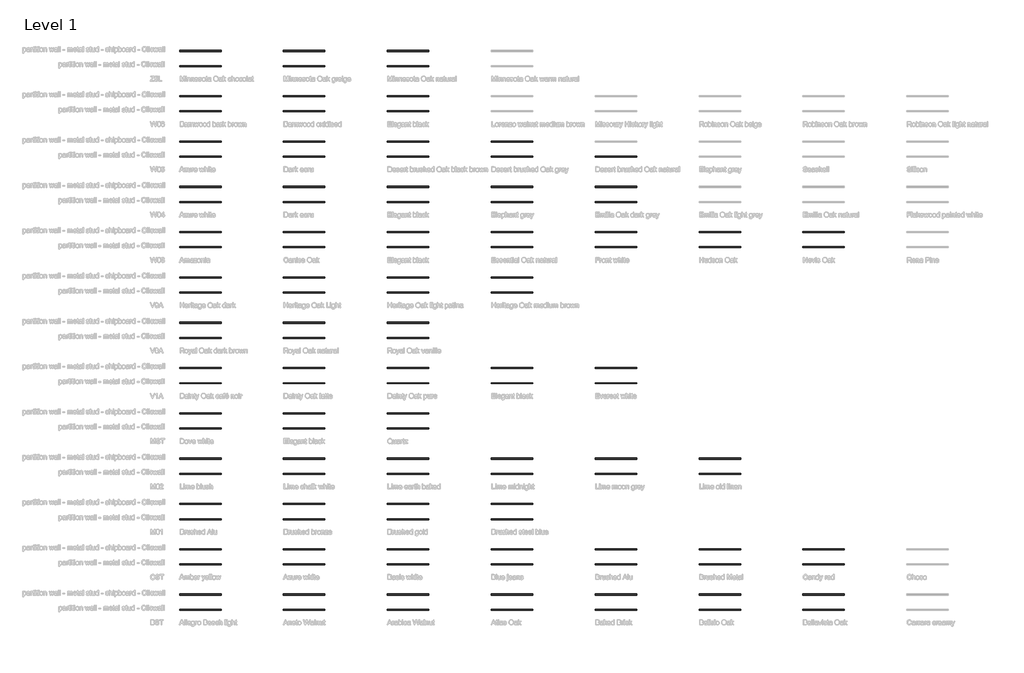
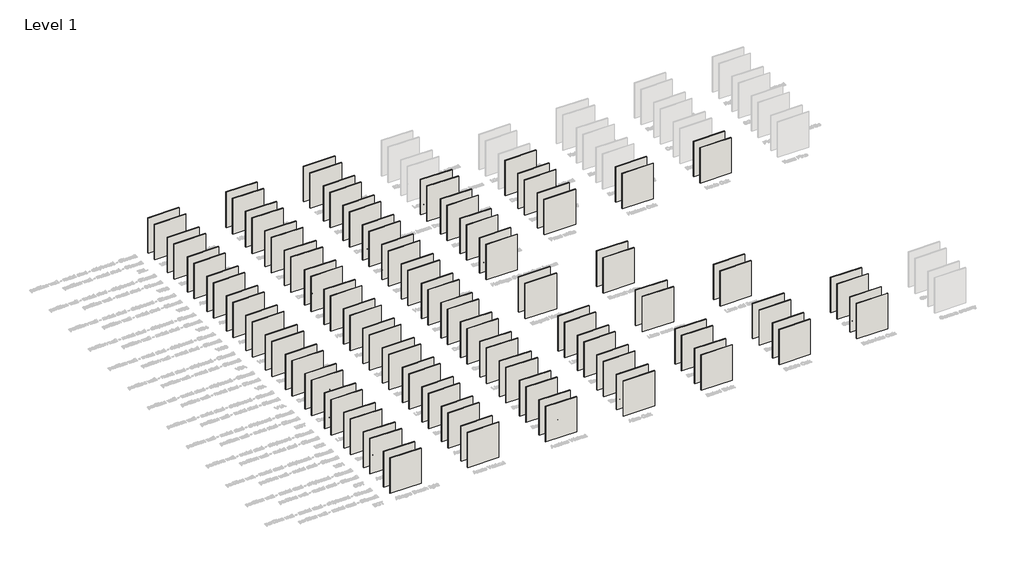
# One storey, part 1 of 113: 123 walls.
"""IFC4 building model written with IfcOpenShell, lengths in millimetres."""

from ifc_helpers import new_model, si_unit, origin, origin_with_axes, place, context, project, spatial, polyline, outline, extrude, element, save

model = new_model("IFC4")

# Units and contexts
model_context = context("Model", 3, world=origin())
ifc_project = project(units=[si_unit("LENGTHUNIT", "METRE", prefix="MILLI")], contexts=[model_context])

# Site, building, storey
site = spatial("IfcSite", under=ifc_project)
building = spatial("IfcBuilding", under=site)
storey = spatial("IfcBuildingStorey", under=building, Name="Level 1", Elevation=0.0)

# Walls
placement = place(None, origin())
element("IfcWall", 1, ObjectType="RSen_22_WA_partition wall - metal stud - Clicwall BST Allegro Beech light 2785x600x10 mm_Unilin", at=placement, inside=storey, context=model_context, shape_type="SweptSolid", body=[
    extrude(outline(polyline([(14020.8, 1179.2), (10668.0, 1179.2), (10668.0, 1259.2), (14020.8, 1259.2), (14020.8, 1179.2)])), origin_with_axes(), (0.0, 0.0, 1.0), 4000.0),
])
element("IfcWall", 2, ObjectType="RSen_22_WA_partition wall - metal stud - chipboard - Clicwall BST Allegro Beech light 2785x600x10 mm_Unilin", at=placement, inside=storey, context=model_context, shape_type="SweptSolid", body=[
    extrude(outline(polyline([(14020.8, 2392.4), (10668.0, 2392.4), (10668.0, 2484.4), (14020.8, 2484.4), (14020.8, 2392.4)])), origin_with_axes(), (0.0, 0.0, 1.0), 4000.0),
])
element("IfcWall", 3, ObjectType="RSen_22_WA_partition wall - metal stud - Clicwall BST Aneto Walnut 2785x600x10 mm_Unilin", at=placement, inside=storey, context=model_context, shape_type="SweptSolid", body=[
    extrude(outline(polyline([(22402.8, 1179.2), (19050.0, 1179.2), (19050.0, 1259.2), (22402.8, 1259.2), (22402.8, 1179.2)])), origin_with_axes(), (0.0, 0.0, 1.0), 4000.0),
])
element("IfcWall", 4, ObjectType="RSen_22_WA_partition wall - metal stud - chipboard - Clicwall BST Aneto Walnut 2785x600x10 mm_Unilin", at=placement, inside=storey, context=model_context, shape_type="SweptSolid", body=[
    extrude(outline(polyline([(22402.8, 2392.4), (19050.0, 2392.4), (19050.0, 2484.4), (22402.8, 2484.4), (22402.8, 2392.4)])), origin_with_axes(), (0.0, 0.0, 1.0), 4000.0),
])
element("IfcWall", 5, ObjectType="RSen_22_WA_partition wall - metal stud - Clicwall BST Arabica Walnut 2785x600x10 mm_Unilin", at=placement, inside=storey, context=model_context, shape_type="SweptSolid", body=[
    extrude(outline(polyline([(30784.8, 1179.2), (27432.0, 1179.2), (27432.0, 1259.2), (30784.8, 1259.2), (30784.8, 1179.2)])), origin_with_axes(), (0.0, 0.0, 1.0), 4000.0),
])
element("IfcWall", 6, ObjectType="RSen_22_WA_partition wall - metal stud - chipboard - Clicwall BST Arabica Walnut 2785x600x10 mm_Unilin", at=placement, inside=storey, context=model_context, shape_type="SweptSolid", body=[
    extrude(outline(polyline([(30784.8, 2392.4), (27432.0, 2392.4), (27432.0, 2484.4), (30784.8, 2484.4), (30784.8, 2392.4)])), origin_with_axes(), (0.0, 0.0, 1.0), 4000.0),
])
element("IfcWall", 7, ObjectType="RSen_22_WA_partition wall - metal stud - Clicwall BST Atlas Oak  2785x600x10 mm_Unilin", at=placement, inside=storey, context=model_context, shape_type="SweptSolid", body=[
    extrude(outline(polyline([(39166.8, 1179.2), (35814.0, 1179.2), (35814.0, 1259.2), (39166.8, 1259.2), (39166.8, 1179.2)])), origin_with_axes(), (0.0, 0.0, 1.0), 4000.0),
])
element("IfcWall", 8, ObjectType="RSen_22_WA_partition wall - metal stud - chipboard - Clicwall BST Atlas Oak  2785x600x10 mm_Unilin", at=placement, inside=storey, context=model_context, shape_type="SweptSolid", body=[
    extrude(outline(polyline([(39166.8, 2392.4), (35814.0, 2392.4), (35814.0, 2484.4), (39166.8, 2484.4), (39166.8, 2392.4)])), origin_with_axes(), (0.0, 0.0, 1.0), 4000.0),
])
element("IfcWall", 9, ObjectType="RSen_22_WA_partition wall - metal stud - Clicwall BST Baked Brick 2785x600x10 mm_Unilin", at=placement, inside=storey, context=model_context, shape_type="SweptSolid", body=[
    extrude(outline(polyline([(47548.8, 1179.2), (44196.0, 1179.2), (44196.0, 1259.2), (47548.8, 1259.2), (47548.8, 1179.2)])), origin_with_axes(), (0.0, 0.0, 1.0), 4000.0),
])
element("IfcWall", 10, ObjectType="RSen_22_WA_partition wall - metal stud - chipboard - Clicwall BST Baked Brick 2785x600x10 mm_Unilin", at=placement, inside=storey, context=model_context, shape_type="SweptSolid", body=[
    extrude(outline(polyline([(47548.8, 2392.4), (44196.0, 2392.4), (44196.0, 2484.4), (47548.8, 2484.4), (47548.8, 2392.4)])), origin_with_axes(), (0.0, 0.0, 1.0), 4000.0),
])
element("IfcWall", 11, ObjectType="RSen_22_WA_partition wall - metal stud - Clicwall BST Belisio Oak 2785x600x10 mm_Unilin", at=placement, inside=storey, context=model_context, shape_type="SweptSolid", body=[
    extrude(outline(polyline([(55930.8, 1179.2), (52578.0, 1179.2), (52578.0, 1259.2), (55930.8, 1259.2), (55930.8, 1179.2)])), origin_with_axes(), (0.0, 0.0, 1.0), 4000.0),
])
element("IfcWall", 12, ObjectType="RSen_22_WA_partition wall - metal stud - chipboard - Clicwall BST Belisio Oak 2785x600x10 mm_Unilin", at=placement, inside=storey, context=model_context, shape_type="SweptSolid", body=[
    extrude(outline(polyline([(55930.8, 2392.4), (52578.0, 2392.4), (52578.0, 2484.4), (55930.8, 2484.4), (55930.8, 2392.4)])), origin_with_axes(), (0.0, 0.0, 1.0), 4000.0),
])
element("IfcWall", 13, ObjectType="RSen_22_WA_partition wall - metal stud - Clicwall BST Bellavista Oak 2785x600x10 mm_Unilin", at=placement, inside=storey, context=model_context, shape_type="SweptSolid", body=[
    extrude(outline(polyline([(64312.8, 1179.2), (60960.0, 1179.2), (60960.0, 1259.2), (64312.8, 1259.2), (64312.8, 1179.2)])), origin_with_axes(), (0.0, 0.0, 1.0), 4000.0),
])
element("IfcWall", 14, ObjectType="RSen_22_WA_partition wall - metal stud - chipboard - Clicwall BST Bellavista Oak 2785x600x10 mm_Unilin", at=placement, inside=storey, context=model_context, shape_type="SweptSolid", body=[
    extrude(outline(polyline([(64312.8, 2392.4), (60960.0, 2392.4), (60960.0, 2484.4), (64312.8, 2484.4), (64312.8, 2392.4)])), origin_with_axes(), (0.0, 0.0, 1.0), 4000.0),
])
element("IfcWall", 15, ObjectType="RSen_22_WA_partition wall - metal stud - Clicwall CST Amber yellow 2785x600x10 mm_Unilin", at=placement, inside=storey, context=model_context, shape_type="SweptSolid", body=[
    extrude(outline(polyline([(14020.8, 4836.8), (10668.0, 4836.8), (10668.0, 4916.8), (14020.8, 4916.8), (14020.8, 4836.8)])), origin_with_axes(), (0.0, 0.0, 1.0), 4000.0),
])
element("IfcWall", 16, ObjectType="RSen_22_WA_partition wall - metal stud - chipboard - Clicwall CST Amber yellow 2785x600x10 mm_Unilin", at=placement, inside=storey, context=model_context, shape_type="SweptSolid", body=[
    extrude(outline(polyline([(14020.8, 6050.0), (10668.0, 6050.0), (10668.0, 6142.0), (14020.8, 6142.0), (14020.8, 6050.0)])), origin_with_axes(), (0.0, 0.0, 1.0), 4000.0),
])
element("IfcWall", 17, ObjectType="RSen_22_WA_partition wall - metal stud - Clicwall CST Azure white 2785x600x10 mm_Unilin", at=placement, inside=storey, context=model_context, shape_type="SweptSolid", body=[
    extrude(outline(polyline([(22402.8, 4836.8), (19050.0, 4836.8), (19050.0, 4916.8), (22402.8, 4916.8), (22402.8, 4836.8)])), origin_with_axes(), (0.0, 0.0, 1.0), 4000.0),
])
element("IfcWall", 18, ObjectType="RSen_22_WA_partition wall - metal stud - chipboard - Clicwall CST Azure white 2785x600x10 mm_Unilin", at=placement, inside=storey, context=model_context, shape_type="SweptSolid", body=[
    extrude(outline(polyline([(22402.8, 6050.0), (19050.0, 6050.0), (19050.0, 6142.0), (22402.8, 6142.0), (22402.8, 6050.0)])), origin_with_axes(), (0.0, 0.0, 1.0), 4000.0),
])
element("IfcWall", 19, ObjectType="RSen_22_WA_partition wall - metal stud - Clicwall CST Basic white 2785x600x10 mm_Unilin", at=placement, inside=storey, context=model_context, shape_type="SweptSolid", body=[
    extrude(outline(polyline([(30784.8, 4836.8), (27432.0, 4836.8), (27432.0, 4916.8), (30784.8, 4916.8), (30784.8, 4836.8)])), origin_with_axes(), (0.0, 0.0, 1.0), 4000.0),
])
element("IfcWall", 20, ObjectType="RSen_22_WA_partition wall - metal stud - chipboard - Clicwall CST Basic white 2785x600x10 mm_Unilin", at=placement, inside=storey, context=model_context, shape_type="SweptSolid", body=[
    extrude(outline(polyline([(30784.8, 6050.0), (27432.0, 6050.0), (27432.0, 6142.0), (30784.8, 6142.0), (30784.8, 6050.0)])), origin_with_axes(), (0.0, 0.0, 1.0), 4000.0),
])
element("IfcWall", 21, ObjectType="RSen_22_WA_partition wall - metal stud - Clicwall CST Blue jeans 2785x600x10 mm_Unilin", at=placement, inside=storey, context=model_context, shape_type="SweptSolid", body=[
    extrude(outline(polyline([(39166.8, 4836.8), (35814.0, 4836.8), (35814.0, 4916.8), (39166.8, 4916.8), (39166.8, 4836.8)])), origin_with_axes(), (0.0, 0.0, 1.0), 4000.0),
])
element("IfcWall", 22, ObjectType="RSen_22_WA_partition wall - metal stud - chipboard - Clicwall CST Blue jeans 2785x600x10 mm_Unilin", at=placement, inside=storey, context=model_context, shape_type="SweptSolid", body=[
    extrude(outline(polyline([(39166.8, 6050.0), (35814.0, 6050.0), (35814.0, 6142.0), (39166.8, 6142.0), (39166.8, 6050.0)])), origin_with_axes(), (0.0, 0.0, 1.0), 4000.0),
])
element("IfcWall", 23, ObjectType="RSen_22_WA_partition wall - metal stud - Clicwall CST Brushed Alu 2785x600x10 mm_Unilin", at=placement, inside=storey, context=model_context, shape_type="SweptSolid", body=[
    extrude(outline(polyline([(47548.8, 4836.8), (44196.0, 4836.8), (44196.0, 4916.8), (47548.8, 4916.8), (47548.8, 4836.8)])), origin_with_axes(), (0.0, 0.0, 1.0), 4000.0),
])
element("IfcWall", 24, ObjectType="RSen_22_WA_partition wall - metal stud - chipboard - Clicwall CST Brushed Alu 2785x600x10 mm_Unilin", at=placement, inside=storey, context=model_context, shape_type="SweptSolid", body=[
    extrude(outline(polyline([(47548.8, 6050.0), (44196.0, 6050.0), (44196.0, 6142.0), (47548.8, 6142.0), (47548.8, 6050.0)])), origin_with_axes(), (0.0, 0.0, 1.0), 4000.0),
])
element("IfcWall", 25, ObjectType="RSen_22_WA_partition wall - metal stud - Clicwall CST Brushed Metal 2785x600x10 mm_Unilin", at=placement, inside=storey, context=model_context, shape_type="SweptSolid", body=[
    extrude(outline(polyline([(55930.8, 4836.8), (52578.0, 4836.8), (52578.0, 4916.8), (55930.8, 4916.8), (55930.8, 4836.8)])), origin_with_axes(), (0.0, 0.0, 1.0), 4000.0),
])
element("IfcWall", 26, ObjectType="RSen_22_WA_partition wall - metal stud - chipboard - Clicwall CST Brushed Metal 2785x600x10 mm_Unilin", at=placement, inside=storey, context=model_context, shape_type="SweptSolid", body=[
    extrude(outline(polyline([(55930.8, 6050.0), (52578.0, 6050.0), (52578.0, 6142.0), (55930.8, 6142.0), (55930.8, 6050.0)])), origin_with_axes(), (0.0, 0.0, 1.0), 4000.0),
])
element("IfcWall", 27, ObjectType="RSen_22_WA_partition wall - metal stud - Clicwall CST Candy red 2785x600x10 mm_Unilin", at=placement, inside=storey, context=model_context, shape_type="SweptSolid", body=[
    extrude(outline(polyline([(64312.8, 4836.8), (60960.0, 4836.8), (60960.0, 4916.8), (64312.8, 4916.8), (64312.8, 4836.8)])), origin_with_axes(), (0.0, 0.0, 1.0), 4000.0),
])
element("IfcWall", 28, ObjectType="RSen_22_WA_partition wall - metal stud - chipboard - Clicwall CST Candy red 2785x600x10 mm_Unilin", at=placement, inside=storey, context=model_context, shape_type="SweptSolid", body=[
    extrude(outline(polyline([(64312.8, 6050.0), (60960.0, 6050.0), (60960.0, 6142.0), (64312.8, 6142.0), (64312.8, 6050.0)])), origin_with_axes(), (0.0, 0.0, 1.0), 4000.0),
])
element("IfcWall", 29, ObjectType="RSen_22_WA_partition wall - metal stud - Clicwall M01 Brushed Alu 2785x600x10 mm_Unilin", at=placement, inside=storey, context=model_context, shape_type="SweptSolid", body=[
    extrude(outline(polyline([(14020.8, 8494.4), (10668.0, 8494.4), (10668.0, 8574.4), (14020.8, 8574.4), (14020.8, 8494.4)])), origin_with_axes(), (0.0, 0.0, 1.0), 4000.0),
])
element("IfcWall", 30, ObjectType="RSen_22_WA_partition wall - metal stud - chipboard - Clicwall M01 Brushed Alu 2785x600x10 mm_Unilin", at=placement, inside=storey, context=model_context, shape_type="SweptSolid", body=[
    extrude(outline(polyline([(14020.8, 9707.6), (10668.0, 9707.6), (10668.0, 9799.6), (14020.8, 9799.6), (14020.8, 9707.6)])), origin_with_axes(), (0.0, 0.0, 1.0), 4000.0),
])
element("IfcWall", 31, ObjectType="RSen_22_WA_partition wall - metal stud - Clicwall M01 Brushed bronze 2785x600x10 mm_Unilin", at=placement, inside=storey, context=model_context, shape_type="SweptSolid", body=[
    extrude(outline(polyline([(22402.8, 8494.4), (19050.0, 8494.4), (19050.0, 8574.4), (22402.8, 8574.4), (22402.8, 8494.4)])), origin_with_axes(), (0.0, 0.0, 1.0), 4000.0),
])
element("IfcWall", 32, ObjectType="RSen_22_WA_partition wall - metal stud - chipboard - Clicwall M01 Brushed bronze 2785x600x10 mm_Unilin", at=placement, inside=storey, context=model_context, shape_type="SweptSolid", body=[
    extrude(outline(polyline([(22402.8, 9707.6), (19050.0, 9707.6), (19050.0, 9799.6), (22402.8, 9799.6), (22402.8, 9707.6)])), origin_with_axes(), (0.0, 0.0, 1.0), 4000.0),
])
element("IfcWall", 33, ObjectType="RSen_22_WA_partition wall - metal stud - Clicwall M01 Brushed gold 2785x600x10 mm_Unilin", at=placement, inside=storey, context=model_context, shape_type="SweptSolid", body=[
    extrude(outline(polyline([(30784.8, 8494.4), (27432.0, 8494.4), (27432.0, 8574.4), (30784.8, 8574.4), (30784.8, 8494.4)])), origin_with_axes(), (0.0, 0.0, 1.0), 4000.0),
])
element("IfcWall", 34, ObjectType="RSen_22_WA_partition wall - metal stud - chipboard - Clicwall M01 Brushed gold 2785x600x10 mm_Unilin", at=placement, inside=storey, context=model_context, shape_type="SweptSolid", body=[
    extrude(outline(polyline([(30784.8, 9707.6), (27432.0, 9707.6), (27432.0, 9799.6), (30784.8, 9799.6), (30784.8, 9707.6)])), origin_with_axes(), (0.0, 0.0, 1.0), 4000.0),
])
element("IfcWall", 35, ObjectType="RSen_22_WA_partition wall - metal stud - Clicwall M01 Brushed steel blue  2785x600x10 mm_Unilin", at=placement, inside=storey, context=model_context, shape_type="SweptSolid", body=[
    extrude(outline(polyline([(39166.8, 8494.4), (35814.0, 8494.4), (35814.0, 8574.4), (39166.8, 8574.4), (39166.8, 8494.4)])), origin_with_axes(), (0.0, 0.0, 1.0), 4000.0),
])
element("IfcWall", 36, ObjectType="RSen_22_WA_partition wall - metal stud - chipboard - Clicwall M01 Brushed steel blue  2785x600x10 mm_Unilin", at=placement, inside=storey, context=model_context, shape_type="SweptSolid", body=[
    extrude(outline(polyline([(39166.8, 9707.6), (35814.0, 9707.6), (35814.0, 9799.6), (39166.8, 9799.6), (39166.8, 9707.6)])), origin_with_axes(), (0.0, 0.0, 1.0), 4000.0),
])
element("IfcWall", 37, ObjectType="RSen_22_WA_partition wall - metal stud - Clicwall M02 Lime blush  2785x600x10 mm_Unilin", at=placement, inside=storey, context=model_context, shape_type="SweptSolid", body=[
    extrude(outline(polyline([(14020.8, 12152.0), (10668.0, 12152.0), (10668.0, 12232.0), (14020.8, 12232.0), (14020.8, 12152.0)])), origin_with_axes(), (0.0, 0.0, 1.0), 4000.0),
])
element("IfcWall", 38, ObjectType="RSen_22_WA_partition wall - metal stud - chipboard - Clicwall M02 Lime blush  2785x600x10 mm_Unilin", at=placement, inside=storey, context=model_context, shape_type="SweptSolid", body=[
    extrude(outline(polyline([(14020.8, 13365.2), (10668.0, 13365.2), (10668.0, 13457.2), (14020.8, 13457.2), (14020.8, 13365.2)])), origin_with_axes(), (0.0, 0.0, 1.0), 4000.0),
])
element("IfcWall", 39, ObjectType="RSen_22_WA_partition wall - metal stud - Clicwall M02 Lime chalk white  2785x600x10 mm_Unilin", at=placement, inside=storey, context=model_context, shape_type="SweptSolid", body=[
    extrude(outline(polyline([(22402.8, 12152.0), (19050.0, 12152.0), (19050.0, 12232.0), (22402.8, 12232.0), (22402.8, 12152.0)])), origin_with_axes(), (0.0, 0.0, 1.0), 4000.0),
])
element("IfcWall", 40, ObjectType="RSen_22_WA_partition wall - metal stud - chipboard - Clicwall M02 Lime chalk white  2785x600x10 mm_Unilin", at=placement, inside=storey, context=model_context, shape_type="SweptSolid", body=[
    extrude(outline(polyline([(22402.8, 13365.2), (19050.0, 13365.2), (19050.0, 13457.2), (22402.8, 13457.2), (22402.8, 13365.2)])), origin_with_axes(), (0.0, 0.0, 1.0), 4000.0),
])
element("IfcWall", 41, ObjectType="RSen_22_WA_partition wall - metal stud - Clicwall M02 Lime earth baked  2785x600x10 mm_Unilin", at=placement, inside=storey, context=model_context, shape_type="SweptSolid", body=[
    extrude(outline(polyline([(30784.8, 12152.0), (27432.0, 12152.0), (27432.0, 12232.0), (30784.8, 12232.0), (30784.8, 12152.0)])), origin_with_axes(), (0.0, 0.0, 1.0), 4000.0),
])
element("IfcWall", 42, ObjectType="RSen_22_WA_partition wall - metal stud - chipboard - Clicwall M02 Lime earth baked  2785x600x10 mm_Unilin", at=placement, inside=storey, context=model_context, shape_type="SweptSolid", body=[
    extrude(outline(polyline([(30784.8, 13365.2), (27432.0, 13365.2), (27432.0, 13457.2), (30784.8, 13457.2), (30784.8, 13365.2)])), origin_with_axes(), (0.0, 0.0, 1.0), 4000.0),
])
element("IfcWall", 43, ObjectType="RSen_22_WA_partition wall - metal stud - Clicwall M02 Lime midnight  2785x600x10 mm_Unilin", at=placement, inside=storey, context=model_context, shape_type="SweptSolid", body=[
    extrude(outline(polyline([(39166.8, 12152.0), (35814.0, 12152.0), (35814.0, 12232.0), (39166.8, 12232.0), (39166.8, 12152.0)])), origin_with_axes(), (0.0, 0.0, 1.0), 4000.0),
])
element("IfcWall", 44, ObjectType="RSen_22_WA_partition wall - metal stud - chipboard - Clicwall M02 Lime midnight  2785x600x10 mm_Unilin", at=placement, inside=storey, context=model_context, shape_type="SweptSolid", body=[
    extrude(outline(polyline([(39166.8, 13365.2), (35814.0, 13365.2), (35814.0, 13457.2), (39166.8, 13457.2), (39166.8, 13365.2)])), origin_with_axes(), (0.0, 0.0, 1.0), 4000.0),
])
element("IfcWall", 45, ObjectType="RSen_22_WA_partition wall - metal stud - Clicwall M02 Lime moon grey  2785x600x10 mm_Unilin", at=placement, inside=storey, context=model_context, shape_type="SweptSolid", body=[
    extrude(outline(polyline([(47548.8, 12152.0), (44196.0, 12152.0), (44196.0, 12232.0), (47548.8, 12232.0), (47548.8, 12152.0)])), origin_with_axes(), (0.0, 0.0, 1.0), 4000.0),
])
element("IfcWall", 46, ObjectType="RSen_22_WA_partition wall - metal stud - chipboard - Clicwall M02 Lime moon grey  2785x600x10 mm_Unilin", at=placement, inside=storey, context=model_context, shape_type="SweptSolid", body=[
    extrude(outline(polyline([(47548.8, 13365.2), (44196.0, 13365.2), (44196.0, 13457.2), (47548.8, 13457.2), (47548.8, 13365.2)])), origin_with_axes(), (0.0, 0.0, 1.0), 4000.0),
])
element("IfcWall", 47, ObjectType="RSen_22_WA_partition wall - metal stud - Clicwall M02 Lime old linen  2785x600x10 mm_Unilin", at=placement, inside=storey, context=model_context, shape_type="SweptSolid", body=[
    extrude(outline(polyline([(55930.8, 12152.0), (52578.0, 12152.0), (52578.0, 12232.0), (55930.8, 12232.0), (55930.8, 12152.0)])), origin_with_axes(), (0.0, 0.0, 1.0), 4000.0),
])
element("IfcWall", 48, ObjectType="RSen_22_WA_partition wall - metal stud - chipboard - Clicwall M02 Lime old linen  2785x600x10 mm_Unilin", at=placement, inside=storey, context=model_context, shape_type="SweptSolid", body=[
    extrude(outline(polyline([(55930.8, 13365.2), (52578.0, 13365.2), (52578.0, 13457.2), (55930.8, 13457.2), (55930.8, 13365.2)])), origin_with_axes(), (0.0, 0.0, 1.0), 4000.0),
])
element("IfcWall", 49, ObjectType="RSen_22_WA_partition wall - metal stud - Clicwall MST Dove white  2785x600x10 mm_Unilin", at=placement, inside=storey, context=model_context, shape_type="SweptSolid", body=[
    extrude(outline(polyline([(14020.8, 15809.6), (10668.0, 15809.6), (10668.0, 15889.6), (14020.8, 15889.6), (14020.8, 15809.6)])), origin_with_axes(), (0.0, 0.0, 1.0), 4000.0),
])
element("IfcWall", 50, ObjectType="RSen_22_WA_partition wall - metal stud - chipboard - Clicwall MST Dove white  2785x600x10 mm_Unilin", at=placement, inside=storey, context=model_context, shape_type="SweptSolid", body=[
    extrude(outline(polyline([(14020.8, 17022.8), (10668.0, 17022.8), (10668.0, 17114.8), (14020.8, 17114.8), (14020.8, 17022.8)])), origin_with_axes(), (0.0, 0.0, 1.0), 4000.0),
])
element("IfcWall", 51, ObjectType="RSen_22_WA_partition wall - metal stud - Clicwall MST Elegant black  2785x600x10 mm_Unilin", at=placement, inside=storey, context=model_context, shape_type="SweptSolid", body=[
    extrude(outline(polyline([(22402.8, 15809.6), (19050.0, 15809.6), (19050.0, 15889.6), (22402.8, 15889.6), (22402.8, 15809.6)])), origin_with_axes(), (0.0, 0.0, 1.0), 4000.0),
])
element("IfcWall", 52, ObjectType="RSen_22_WA_partition wall - metal stud - chipboard - Clicwall MST Elegant black  2785x600x10 mm_Unilin", at=placement, inside=storey, context=model_context, shape_type="SweptSolid", body=[
    extrude(outline(polyline([(22402.8, 17022.8), (19050.0, 17022.8), (19050.0, 17114.8), (22402.8, 17114.8), (22402.8, 17022.8)])), origin_with_axes(), (0.0, 0.0, 1.0), 4000.0),
])
element("IfcWall", 53, ObjectType="RSen_22_WA_partition wall - metal stud - Clicwall MST Quartz  2785x600x10 mm_Unilin", at=placement, inside=storey, context=model_context, shape_type="SweptSolid", body=[
    extrude(outline(polyline([(30784.8, 15809.6), (27432.0, 15809.6), (27432.0, 15889.6), (30784.8, 15889.6), (30784.8, 15809.6)])), origin_with_axes(), (0.0, 0.0, 1.0), 4000.0),
])
element("IfcWall", 54, ObjectType="RSen_22_WA_partition wall - metal stud - chipboard - Clicwall MST Quartz  2785x600x10 mm_Unilin", at=placement, inside=storey, context=model_context, shape_type="SweptSolid", body=[
    extrude(outline(polyline([(30784.8, 17022.8), (27432.0, 17022.8), (27432.0, 17114.8), (30784.8, 17114.8), (30784.8, 17022.8)])), origin_with_axes(), (0.0, 0.0, 1.0), 4000.0),
])
element("IfcWall", 55, ObjectType="RSen_22_WA_partition wall - metal stud - Clicwall V1A Dainty Oak café noir 2785x600x10 mm_Unilin", at=placement, inside=storey, context=model_context, shape_type="SweptSolid", body=[
    extrude(outline(polyline([(14020.8, 19467.2), (10668.0, 19467.2), (10668.0, 19547.2), (14020.8, 19547.2), (14020.8, 19467.2)])), origin_with_axes(), (0.0, 0.0, 1.0), 4000.0),
])
element("IfcWall", 56, ObjectType="RSen_22_WA_partition wall - metal stud - chipboard - Clicwall V1A Dainty Oak café noir 2785x600x10 mm_Unilin", at=placement, inside=storey, context=model_context, shape_type="SweptSolid", body=[
    extrude(outline(polyline([(14020.8, 20680.4), (10668.0, 20680.4), (10668.0, 20772.4), (14020.8, 20772.4), (14020.8, 20680.4)])), origin_with_axes(), (0.0, 0.0, 1.0), 4000.0),
])
element("IfcWall", 57, ObjectType="RSen_22_WA_partition wall - metal stud - Clicwall V1A Dainty Oak latte 2785x600x10 mm_Unilin", at=placement, inside=storey, context=model_context, shape_type="SweptSolid", body=[
    extrude(outline(polyline([(22402.8, 19467.2), (19050.0, 19467.2), (19050.0, 19547.2), (22402.8, 19547.2), (22402.8, 19467.2)])), origin_with_axes(), (0.0, 0.0, 1.0), 4000.0),
])
element("IfcWall", 58, ObjectType="RSen_22_WA_partition wall - metal stud - chipboard - Clicwall V1A Dainty Oak latte 2785x600x10 mm_Unilin", at=placement, inside=storey, context=model_context, shape_type="SweptSolid", body=[
    extrude(outline(polyline([(22402.8, 20680.4), (19050.0, 20680.4), (19050.0, 20772.4), (22402.8, 20772.4), (22402.8, 20680.4)])), origin_with_axes(), (0.0, 0.0, 1.0), 4000.0),
])
element("IfcWall", 59, ObjectType="RSen_22_WA_partition wall - metal stud - Clicwall V1A Dainty Oak pure 2785x600x10 mm_Unilin", at=placement, inside=storey, context=model_context, shape_type="SweptSolid", body=[
    extrude(outline(polyline([(30784.8, 19467.2), (27432.0, 19467.2), (27432.0, 19547.2), (30784.8, 19547.2), (30784.8, 19467.2)])), origin_with_axes(), (0.0, 0.0, 1.0), 4000.0),
])
element("IfcWall", 60, ObjectType="RSen_22_WA_partition wall - metal stud - chipboard - Clicwall V1A Dainty Oak pure 2785x600x10 mm_Unilin", at=placement, inside=storey, context=model_context, shape_type="SweptSolid", body=[
    extrude(outline(polyline([(30784.8, 20680.4), (27432.0, 20680.4), (27432.0, 20772.4), (30784.8, 20772.4), (30784.8, 20680.4)])), origin_with_axes(), (0.0, 0.0, 1.0), 4000.0),
])
element("IfcWall", 61, ObjectType="RSen_22_WA_partition wall - metal stud - Clicwall V1A Elegant black  2785x600x10 mm_Unilin", at=placement, inside=storey, context=model_context, shape_type="SweptSolid", body=[
    extrude(outline(polyline([(39166.8, 19467.2), (35814.0, 19467.2), (35814.0, 19547.2), (39166.8, 19547.2), (39166.8, 19467.2)])), origin_with_axes(), (0.0, 0.0, 1.0), 4000.0),
])
element("IfcWall", 62, ObjectType="RSen_22_WA_partition wall - metal stud - chipboard - Clicwall V1A Elegant black  2785x600x10 mm_Unilin", at=placement, inside=storey, context=model_context, shape_type="SweptSolid", body=[
    extrude(outline(polyline([(39166.8, 20680.4), (35814.0, 20680.4), (35814.0, 20772.4), (39166.8, 20772.4), (39166.8, 20680.4)])), origin_with_axes(), (0.0, 0.0, 1.0), 4000.0),
])
element("IfcWall", 63, ObjectType="RSen_22_WA_partition wall - metal stud - Clicwall V1A Everest white  2785x600x10 mm_Unilin", at=placement, inside=storey, context=model_context, shape_type="SweptSolid", body=[
    extrude(outline(polyline([(47548.8, 19467.2), (44196.0, 19467.2), (44196.0, 19547.2), (47548.8, 19547.2), (47548.8, 19467.2)])), origin_with_axes(), (0.0, 0.0, 1.0), 4000.0),
])
element("IfcWall", 64, ObjectType="RSen_22_WA_partition wall - metal stud - chipboard - Clicwall V1A Everest white  2785x600x10 mm_Unilin", at=placement, inside=storey, context=model_context, shape_type="SweptSolid", body=[
    extrude(outline(polyline([(47548.8, 20680.4), (44196.0, 20680.4), (44196.0, 20772.4), (47548.8, 20772.4), (47548.8, 20680.4)])), origin_with_axes(), (0.0, 0.0, 1.0), 4000.0),
])
element("IfcWall", 65, ObjectType="RSen_22_WA_partition wall - metal stud - Clicwall V8A Royal Oak dark brown 2785x600x10 mm_Unilin", at=placement, inside=storey, context=model_context, shape_type="SweptSolid", body=[
    extrude(outline(polyline([(14020.8, 23124.8), (10668.0, 23124.8), (10668.0, 23204.8), (14020.8, 23204.8), (14020.8, 23124.8)])), origin_with_axes(), (0.0, 0.0, 1.0), 4000.0),
])
element("IfcWall", 66, ObjectType="RSen_22_WA_partition wall - metal stud - chipboard - Clicwall V8A Royal Oak dark brown 2785x600x10 mm_Unilin", at=placement, inside=storey, context=model_context, shape_type="SweptSolid", body=[
    extrude(outline(polyline([(14020.8, 24338.0), (10668.0, 24338.0), (10668.0, 24430.0), (14020.8, 24430.0), (14020.8, 24338.0)])), origin_with_axes(), (0.0, 0.0, 1.0), 4000.0),
])
element("IfcWall", 67, ObjectType="RSen_22_WA_partition wall - metal stud - Clicwall V8A Royal Oak natural 2785x600x10 mm_Unilin", at=placement, inside=storey, context=model_context, shape_type="SweptSolid", body=[
    extrude(outline(polyline([(22402.8, 23124.8), (19050.0, 23124.8), (19050.0, 23204.8), (22402.8, 23204.8), (22402.8, 23124.8)])), origin_with_axes(), (0.0, 0.0, 1.0), 4000.0),
])
element("IfcWall", 68, ObjectType="RSen_22_WA_partition wall - metal stud - chipboard - Clicwall V8A Royal Oak natural 2785x600x10 mm_Unilin", at=placement, inside=storey, context=model_context, shape_type="SweptSolid", body=[
    extrude(outline(polyline([(22402.8, 24338.0), (19050.0, 24338.0), (19050.0, 24430.0), (22402.8, 24430.0), (22402.8, 24338.0)])), origin_with_axes(), (0.0, 0.0, 1.0), 4000.0),
])
element("IfcWall", 69, ObjectType="RSen_22_WA_partition wall - metal stud - Clicwall V8A Royal Oak vanille 2785x600x10 mm_Unilin", at=placement, inside=storey, context=model_context, shape_type="SweptSolid", body=[
    extrude(outline(polyline([(30784.8, 23124.8), (27432.0, 23124.8), (27432.0, 23204.8), (30784.8, 23204.8), (30784.8, 23124.8)])), origin_with_axes(), (0.0, 0.0, 1.0), 4000.0),
])
element("IfcWall", 70, ObjectType="RSen_22_WA_partition wall - metal stud - chipboard - Clicwall V8A Royal Oak vanille 2785x600x10 mm_Unilin", at=placement, inside=storey, context=model_context, shape_type="SweptSolid", body=[
    extrude(outline(polyline([(30784.8, 24338.0), (27432.0, 24338.0), (27432.0, 24430.0), (30784.8, 24430.0), (30784.8, 24338.0)])), origin_with_axes(), (0.0, 0.0, 1.0), 4000.0),
])
element("IfcWall", 71, ObjectType="RSen_22_WA_partition wall - metal stud - Clicwall V9A Heritage Oak dark 2785x600x10 mm_Unilin", at=placement, inside=storey, context=model_context, shape_type="SweptSolid", body=[
    extrude(outline(polyline([(14020.8, 26782.4), (10668.0, 26782.4), (10668.0, 26862.4), (14020.8, 26862.4), (14020.8, 26782.4)])), origin_with_axes(), (0.0, 0.0, 1.0), 4000.0),
])
element("IfcWall", 72, ObjectType="RSen_22_WA_partition wall - metal stud - chipboard - Clicwall V9A Heritage Oak dark 2785x600x10 mm_Unilin", at=placement, inside=storey, context=model_context, shape_type="SweptSolid", body=[
    extrude(outline(polyline([(14020.8, 27995.6), (10668.0, 27995.6), (10668.0, 28087.6), (14020.8, 28087.6), (14020.8, 27995.6)])), origin_with_axes(), (0.0, 0.0, 1.0), 4000.0),
])
element("IfcWall", 73, ObjectType="RSen_22_WA_partition wall - metal stud - Clicwall V9A Heritage Oak Light 2785x600x10 mm_Unilin", at=placement, inside=storey, context=model_context, shape_type="SweptSolid", body=[
    extrude(outline(polyline([(22402.8, 26782.4), (19050.0, 26782.4), (19050.0, 26862.4), (22402.8, 26862.4), (22402.8, 26782.4)])), origin_with_axes(), (0.0, 0.0, 1.0), 4000.0),
])
element("IfcWall", 74, ObjectType="RSen_22_WA_partition wall - metal stud - chipboard - Clicwall V9A Heritage Oak Light 2785x600x10 mm_Unilin", at=placement, inside=storey, context=model_context, shape_type="SweptSolid", body=[
    extrude(outline(polyline([(22402.8, 27995.6), (19050.0, 27995.6), (19050.0, 28087.6), (22402.8, 28087.6), (22402.8, 27995.6)])), origin_with_axes(), (0.0, 0.0, 1.0), 4000.0),
])
element("IfcWall", 75, ObjectType="RSen_22_WA_partition wall - metal stud - Clicwall V9A Heritage Oak light patina 2785x600x10 mm_Unilin", at=placement, inside=storey, context=model_context, shape_type="SweptSolid", body=[
    extrude(outline(polyline([(30784.8, 26782.4), (27432.0, 26782.4), (27432.0, 26862.4), (30784.8, 26862.4), (30784.8, 26782.4)])), origin_with_axes(), (0.0, 0.0, 1.0), 4000.0),
])
element("IfcWall", 76, ObjectType="RSen_22_WA_partition wall - metal stud - chipboard - Clicwall V9A Heritage Oak light patina 2785x600x10 mm_Unilin", at=placement, inside=storey, context=model_context, shape_type="SweptSolid", body=[
    extrude(outline(polyline([(30784.8, 27995.6), (27432.0, 27995.6), (27432.0, 28087.6), (30784.8, 28087.6), (30784.8, 27995.6)])), origin_with_axes(), (0.0, 0.0, 1.0), 4000.0),
])
element("IfcWall", 77, ObjectType="RSen_22_WA_partition wall - metal stud - Clicwall V9A Heritage Oak medium brown 2785x600x10 mm_Unilin", at=placement, inside=storey, context=model_context, shape_type="SweptSolid", body=[
    extrude(outline(polyline([(39166.8, 26782.4), (35814.0, 26782.4), (35814.0, 26862.4), (39166.8, 26862.4), (39166.8, 26782.4)])), origin_with_axes(), (0.0, 0.0, 1.0), 4000.0),
])
element("IfcWall", 78, ObjectType="RSen_22_WA_partition wall - metal stud - chipboard - Clicwall V9A Heritage Oak medium brown 2785x600x10 mm_Unilin", at=placement, inside=storey, context=model_context, shape_type="SweptSolid", body=[
    extrude(outline(polyline([(39166.8, 27995.6), (35814.0, 27995.6), (35814.0, 28087.6), (39166.8, 28087.6), (39166.8, 27995.6)])), origin_with_axes(), (0.0, 0.0, 1.0), 4000.0),
])
element("IfcWall", 79, ObjectType="RSen_22_WA_partition wall - metal stud - Clicwall W03 Amazonia 2785x600x10 mm_Unilin", at=placement, inside=storey, context=model_context, shape_type="SweptSolid", body=[
    extrude(outline(polyline([(14020.8, 30440.0), (10668.0, 30440.0), (10668.0, 30520.0), (14020.8, 30520.0), (14020.8, 30440.0)])), origin_with_axes(), (0.0, 0.0, 1.0), 4000.0),
])
element("IfcWall", 80, ObjectType="RSen_22_WA_partition wall - metal stud - chipboard - Clicwall W03 Amazonia 2785x600x10 mm_Unilin", at=placement, inside=storey, context=model_context, shape_type="SweptSolid", body=[
    extrude(outline(polyline([(14020.8, 31653.2), (10668.0, 31653.2), (10668.0, 31745.2), (14020.8, 31745.2), (14020.8, 31653.2)])), origin_with_axes(), (0.0, 0.0, 1.0), 4000.0),
])
element("IfcWall", 81, ObjectType="RSen_22_WA_partition wall - metal stud - Clicwall W03 Canice Oak 2785x600x10 mm_Unilin", at=placement, inside=storey, context=model_context, shape_type="SweptSolid", body=[
    extrude(outline(polyline([(22402.8, 30440.0), (19050.0, 30440.0), (19050.0, 30520.0), (22402.8, 30520.0), (22402.8, 30440.0)])), origin_with_axes(), (0.0, 0.0, 1.0), 4000.0),
])
element("IfcWall", 82, ObjectType="RSen_22_WA_partition wall - metal stud - chipboard - Clicwall W03 Canice Oak 2785x600x10 mm_Unilin", at=placement, inside=storey, context=model_context, shape_type="SweptSolid", body=[
    extrude(outline(polyline([(22402.8, 31653.2), (19050.0, 31653.2), (19050.0, 31745.2), (22402.8, 31745.2), (22402.8, 31653.2)])), origin_with_axes(), (0.0, 0.0, 1.0), 4000.0),
])
element("IfcWall", 83, ObjectType="RSen_22_WA_partition wall - metal stud - Clicwall W03 Elegant black 2785x600x10 mm_Unilin", at=placement, inside=storey, context=model_context, shape_type="SweptSolid", body=[
    extrude(outline(polyline([(30784.8, 30440.0), (27432.0, 30440.0), (27432.0, 30520.0), (30784.8, 30520.0), (30784.8, 30440.0)])), origin_with_axes(), (0.0, 0.0, 1.0), 4000.0),
])
element("IfcWall", 84, ObjectType="RSen_22_WA_partition wall - metal stud - chipboard - Clicwall W03 Elegant black 2785x600x10 mm_Unilin", at=placement, inside=storey, context=model_context, shape_type="SweptSolid", body=[
    extrude(outline(polyline([(30784.8, 31653.2), (27432.0, 31653.2), (27432.0, 31745.2), (30784.8, 31745.2), (30784.8, 31653.2)])), origin_with_axes(), (0.0, 0.0, 1.0), 4000.0),
])
element("IfcWall", 85, ObjectType="RSen_22_WA_partition wall - metal stud - Clicwall W03 Essential Oak natural 2785x600x10 mm_Unilin", at=placement, inside=storey, context=model_context, shape_type="SweptSolid", body=[
    extrude(outline(polyline([(39166.8, 30440.0), (35814.0, 30440.0), (35814.0, 30520.0), (39166.8, 30520.0), (39166.8, 30440.0)])), origin_with_axes(), (0.0, 0.0, 1.0), 4000.0),
])
element("IfcWall", 86, ObjectType="RSen_22_WA_partition wall - metal stud - chipboard - Clicwall W03 Essential Oak natural 2785x600x10 mm_Unilin", at=placement, inside=storey, context=model_context, shape_type="SweptSolid", body=[
    extrude(outline(polyline([(39166.8, 31653.2), (35814.0, 31653.2), (35814.0, 31745.2), (39166.8, 31745.2), (39166.8, 31653.2)])), origin_with_axes(), (0.0, 0.0, 1.0), 4000.0),
])
element("IfcWall", 87, ObjectType="RSen_22_WA_partition wall - metal stud - Clicwall W03 Front white 2785x600x10 mm_Unilin", at=placement, inside=storey, context=model_context, shape_type="SweptSolid", body=[
    extrude(outline(polyline([(47548.8, 30440.0), (44196.0, 30440.0), (44196.0, 30520.0), (47548.8, 30520.0), (47548.8, 30440.0)])), origin_with_axes(), (0.0, 0.0, 1.0), 4000.0),
])
element("IfcWall", 88, ObjectType="RSen_22_WA_partition wall - metal stud - chipboard - Clicwall W03 Front white 2785x600x10 mm_Unilin", at=placement, inside=storey, context=model_context, shape_type="SweptSolid", body=[
    extrude(outline(polyline([(47548.8, 31653.2), (44196.0, 31653.2), (44196.0, 31745.2), (47548.8, 31745.2), (47548.8, 31653.2)])), origin_with_axes(), (0.0, 0.0, 1.0), 4000.0),
])
element("IfcWall", 89, ObjectType="RSen_22_WA_partition wall - metal stud - Clicwall W03 Hudson Oak 2785x600x10 mm_Unilin", at=placement, inside=storey, context=model_context, shape_type="SweptSolid", body=[
    extrude(outline(polyline([(55930.8, 30440.0), (52578.0, 30440.0), (52578.0, 30520.0), (55930.8, 30520.0), (55930.8, 30440.0)])), origin_with_axes(), (0.0, 0.0, 1.0), 4000.0),
])
element("IfcWall", 90, ObjectType="RSen_22_WA_partition wall - metal stud - chipboard - Clicwall W03 Hudson Oak 2785x600x10 mm_Unilin", at=placement, inside=storey, context=model_context, shape_type="SweptSolid", body=[
    extrude(outline(polyline([(55930.8, 31653.2), (52578.0, 31653.2), (52578.0, 31745.2), (55930.8, 31745.2), (55930.8, 31653.2)])), origin_with_axes(), (0.0, 0.0, 1.0), 4000.0),
])
element("IfcWall", 91, ObjectType="RSen_22_WA_partition wall - metal stud - Clicwall W03 Nevis Oak 2785x600x10 mm_Unilin", at=placement, inside=storey, context=model_context, shape_type="SweptSolid", body=[
    extrude(outline(polyline([(64312.8, 30440.0), (60960.0, 30440.0), (60960.0, 30520.0), (64312.8, 30520.0), (64312.8, 30440.0)])), origin_with_axes(), (0.0, 0.0, 1.0), 4000.0),
])
element("IfcWall", 92, ObjectType="RSen_22_WA_partition wall - metal stud - chipboard - Clicwall W03 Nevis Oak 2785x600x10 mm_Unilin", at=placement, inside=storey, context=model_context, shape_type="SweptSolid", body=[
    extrude(outline(polyline([(64312.8, 31653.2), (60960.0, 31653.2), (60960.0, 31745.2), (64312.8, 31745.2), (64312.8, 31653.2)])), origin_with_axes(), (0.0, 0.0, 1.0), 4000.0),
])
element("IfcWall", 93, ObjectType="RSen_22_WA_partition wall - metal stud - Clicwall W04 Azure white 2785x600x10 mm_Unilin", at=placement, inside=storey, context=model_context, shape_type="SweptSolid", body=[
    extrude(outline(polyline([(14020.8, 34097.6), (10668.0, 34097.6), (10668.0, 34177.6), (14020.8, 34177.6), (14020.8, 34097.6)])), origin_with_axes(), (0.0, 0.0, 1.0), 4000.0),
])
element("IfcWall", 94, ObjectType="RSen_22_WA_partition wall - metal stud - chipboard - Clicwall W04 Azure white 2785x600x10 mm_Unilin", at=placement, inside=storey, context=model_context, shape_type="SweptSolid", body=[
    extrude(outline(polyline([(14020.8, 35310.8), (10668.0, 35310.8), (10668.0, 35402.8), (14020.8, 35402.8), (14020.8, 35310.8)])), origin_with_axes(), (0.0, 0.0, 1.0), 4000.0),
])
element("IfcWall", 95, ObjectType="RSen_22_WA_partition wall - metal stud - Clicwall W04 Dark ecru 2785x600x10 mm_Unilin", at=placement, inside=storey, context=model_context, shape_type="SweptSolid", body=[
    extrude(outline(polyline([(22402.8, 34097.6), (19050.0, 34097.6), (19050.0, 34177.6), (22402.8, 34177.6), (22402.8, 34097.6)])), origin_with_axes(), (0.0, 0.0, 1.0), 4000.0),
])
element("IfcWall", 96, ObjectType="RSen_22_WA_partition wall - metal stud - chipboard - Clicwall W04 Dark ecru 2785x600x10 mm_Unilin", at=placement, inside=storey, context=model_context, shape_type="SweptSolid", body=[
    extrude(outline(polyline([(22402.8, 35310.8), (19050.0, 35310.8), (19050.0, 35402.8), (22402.8, 35402.8), (22402.8, 35310.8)])), origin_with_axes(), (0.0, 0.0, 1.0), 4000.0),
])
element("IfcWall", 97, ObjectType="RSen_22_WA_partition wall - metal stud - Clicwall W04 Elegant black 2785x600x10 mm_Unilin", at=placement, inside=storey, context=model_context, shape_type="SweptSolid", body=[
    extrude(outline(polyline([(30784.8, 34097.6), (27432.0, 34097.6), (27432.0, 34177.6), (30784.8, 34177.6), (30784.8, 34097.6)])), origin_with_axes(), (0.0, 0.0, 1.0), 4000.0),
])
element("IfcWall", 98, ObjectType="RSen_22_WA_partition wall - metal stud - chipboard - Clicwall W04 Elegant black 2785x600x10 mm_Unilin", at=placement, inside=storey, context=model_context, shape_type="SweptSolid", body=[
    extrude(outline(polyline([(30784.8, 35310.8), (27432.0, 35310.8), (27432.0, 35402.8), (30784.8, 35402.8), (30784.8, 35310.8)])), origin_with_axes(), (0.0, 0.0, 1.0), 4000.0),
])
element("IfcWall", 99, ObjectType="RSen_22_WA_partition wall - metal stud - Clicwall W04 Elephant grey 2785x600x10 mm_Unilin", at=placement, inside=storey, context=model_context, shape_type="SweptSolid", body=[
    extrude(outline(polyline([(39166.8, 34097.6), (35814.0, 34097.6), (35814.0, 34177.6), (39166.8, 34177.6), (39166.8, 34097.6)])), origin_with_axes(), (0.0, 0.0, 1.0), 4000.0),
])
element("IfcWall", 100, ObjectType="RSen_22_WA_partition wall - metal stud - chipboard - Clicwall W04 Elephant grey 2785x600x10 mm_Unilin", at=placement, inside=storey, context=model_context, shape_type="SweptSolid", body=[
    extrude(outline(polyline([(39166.8, 35310.8), (35814.0, 35310.8), (35814.0, 35402.8), (39166.8, 35402.8), (39166.8, 35310.8)])), origin_with_axes(), (0.0, 0.0, 1.0), 4000.0),
])
element("IfcWall", 101, ObjectType="RSen_22_WA_partition wall - metal stud - Clicwall W04 Emilia Oak dark grey 2785x600x10 mm_Unilin", at=placement, inside=storey, context=model_context, shape_type="SweptSolid", body=[
    extrude(outline(polyline([(47548.8, 34097.6), (44196.0, 34097.6), (44196.0, 34177.6), (47548.8, 34177.6), (47548.8, 34097.6)])), origin_with_axes(), (0.0, 0.0, 1.0), 4000.0),
])
element("IfcWall", 102, ObjectType="RSen_22_WA_partition wall - metal stud - chipboard - Clicwall W04 Emilia Oak dark grey 2785x600x10 mm_Unilin", at=placement, inside=storey, context=model_context, shape_type="SweptSolid", body=[
    extrude(outline(polyline([(47548.8, 35310.8), (44196.0, 35310.8), (44196.0, 35402.8), (47548.8, 35402.8), (47548.8, 35310.8)])), origin_with_axes(), (0.0, 0.0, 1.0), 4000.0),
])
element("IfcWall", 103, ObjectType="RSen_22_WA_partition wall - metal stud - Clicwall W05 Azure white 2785x600x10 mm_Unilin", at=placement, inside=storey, context=model_context, shape_type="SweptSolid", body=[
    extrude(outline(polyline([(14020.8, 37755.2), (10668.0, 37755.2), (10668.0, 37835.2), (14020.8, 37835.2), (14020.8, 37755.2)])), origin_with_axes(), (0.0, 0.0, 1.0), 4000.0),
])
element("IfcWall", 104, ObjectType="RSen_22_WA_partition wall - metal stud - chipboard - Clicwall W05 Azure white 2785x600x10 mm_Unilin", at=placement, inside=storey, context=model_context, shape_type="SweptSolid", body=[
    extrude(outline(polyline([(14020.8, 38968.4), (10668.0, 38968.4), (10668.0, 39060.4), (14020.8, 39060.4), (14020.8, 38968.4)])), origin_with_axes(), (0.0, 0.0, 1.0), 4000.0),
])
element("IfcWall", 105, ObjectType="RSen_22_WA_partition wall - metal stud - Clicwall W05 Dark ecru 2785x600x10 mm_Unilin", at=placement, inside=storey, context=model_context, shape_type="SweptSolid", body=[
    extrude(outline(polyline([(22402.8, 37755.2), (19050.0, 37755.2), (19050.0, 37835.2), (22402.8, 37835.2), (22402.8, 37755.2)])), origin_with_axes(), (0.0, 0.0, 1.0), 4000.0),
])
element("IfcWall", 106, ObjectType="RSen_22_WA_partition wall - metal stud - chipboard - Clicwall W05 Dark ecru 2785x600x10 mm_Unilin", at=placement, inside=storey, context=model_context, shape_type="SweptSolid", body=[
    extrude(outline(polyline([(22402.8, 38968.4), (19050.0, 38968.4), (19050.0, 39060.4), (22402.8, 39060.4), (22402.8, 38968.4)])), origin_with_axes(), (0.0, 0.0, 1.0), 4000.0),
])
element("IfcWall", 107, ObjectType="RSen_22_WA_partition wall - metal stud - Clicwall W05 Desert brushed Oak black brown 2785x600x10 mm_Unilin", at=placement, inside=storey, context=model_context, shape_type="SweptSolid", body=[
    extrude(outline(polyline([(30784.8, 37755.2), (27432.0, 37755.2), (27432.0, 37835.2), (30784.8, 37835.2), (30784.8, 37755.2)])), origin_with_axes(), (0.0, 0.0, 1.0), 4000.0),
])
element("IfcWall", 108, ObjectType="RSen_22_WA_partition wall - metal stud - chipboard - Clicwall W05 Desert brushed Oak black brown 2785x600x10 mm_Unilin", at=placement, inside=storey, context=model_context, shape_type="SweptSolid", body=[
    extrude(outline(polyline([(30784.8, 38968.4), (27432.0, 38968.4), (27432.0, 39060.4), (30784.8, 39060.4), (30784.8, 38968.4)])), origin_with_axes(), (0.0, 0.0, 1.0), 4000.0),
])
element("IfcWall", 109, ObjectType="RSen_22_WA_partition wall - metal stud - Clicwall W05 Desert brushed Oak grey 2785x600x10 mm_Unilin", at=placement, inside=storey, context=model_context, shape_type="SweptSolid", body=[
    extrude(outline(polyline([(39166.8, 37755.2), (35814.0, 37755.2), (35814.0, 37835.2), (39166.8, 37835.2), (39166.8, 37755.2)])), origin_with_axes(), (0.0, 0.0, 1.0), 4000.0),
])
element("IfcWall", 110, ObjectType="RSen_22_WA_partition wall - metal stud - chipboard - Clicwall W05 Desert brushed Oak grey 2785x600x10 mm_Unilin", at=placement, inside=storey, context=model_context, shape_type="SweptSolid", body=[
    extrude(outline(polyline([(39166.8, 38968.4), (35814.0, 38968.4), (35814.0, 39060.4), (39166.8, 39060.4), (39166.8, 38968.4)])), origin_with_axes(), (0.0, 0.0, 1.0), 4000.0),
])
element("IfcWall", 111, ObjectType="RSen_22_WA_partition wall - metal stud - Clicwall W05 Desert brushed Oak natural 2785x600x10 mm_Unilin", at=placement, inside=storey, context=model_context, shape_type="SweptSolid", body=[
    extrude(outline(polyline([(47548.8, 37755.2), (44196.0, 37755.2), (44196.0, 37835.2), (47548.8, 37835.2), (47548.8, 37755.2)])), origin_with_axes(), (0.0, 0.0, 1.0), 4000.0),
])
element("IfcWall", 112, ObjectType="RSen_22_WA_partition wall - metal stud - Clicwall W06 Barnwood bark brown 2785x600x10 mm_Unilin", at=placement, inside=storey, context=model_context, shape_type="SweptSolid", body=[
    extrude(outline(polyline([(14020.8, 41412.8), (10668.0, 41412.8), (10668.0, 41492.8), (14020.8, 41492.8), (14020.8, 41412.8)])), origin_with_axes(), (0.0, 0.0, 1.0), 4000.0),
])
element("IfcWall", 113, ObjectType="RSen_22_WA_partition wall - metal stud - chipboard - Clicwall W06 Barnwood bark brown 2785x600x10 mm_Unilin", at=placement, inside=storey, context=model_context, shape_type="SweptSolid", body=[
    extrude(outline(polyline([(14020.8, 42626.0), (10668.0, 42626.0), (10668.0, 42718.0), (14020.8, 42718.0), (14020.8, 42626.0)])), origin_with_axes(), (0.0, 0.0, 1.0), 4000.0),
])
element("IfcWall", 114, ObjectType="RSen_22_WA_partition wall - metal stud - Clicwall W06 Barnwood oxidised 2785x600x10 mm_Unilin", at=placement, inside=storey, context=model_context, shape_type="SweptSolid", body=[
    extrude(outline(polyline([(22402.8, 41412.8), (19050.0, 41412.8), (19050.0, 41492.8), (22402.8, 41492.8), (22402.8, 41412.8)])), origin_with_axes(), (0.0, 0.0, 1.0), 4000.0),
])
element("IfcWall", 115, ObjectType="RSen_22_WA_partition wall - metal stud - chipboard - Clicwall W06 Barnwood oxidised 2785x600x10 mm_Unilin", at=placement, inside=storey, context=model_context, shape_type="SweptSolid", body=[
    extrude(outline(polyline([(22402.8, 42626.0), (19050.0, 42626.0), (19050.0, 42718.0), (22402.8, 42718.0), (22402.8, 42626.0)])), origin_with_axes(), (0.0, 0.0, 1.0), 4000.0),
])
element("IfcWall", 116, ObjectType="RSen_22_WA_partition wall - metal stud - Clicwall W06 Elegant black 2785x600x10 mm_Unilin", at=placement, inside=storey, context=model_context, shape_type="SweptSolid", body=[
    extrude(outline(polyline([(30784.8, 41412.8), (27432.0, 41412.8), (27432.0, 41492.8), (30784.8, 41492.8), (30784.8, 41412.8)])), origin_with_axes(), (0.0, 0.0, 1.0), 4000.0),
])
element("IfcWall", 117, ObjectType="RSen_22_WA_partition wall - metal stud - chipboard - Clicwall W06 Elegant black 2785x600x10 mm_Unilin", at=placement, inside=storey, context=model_context, shape_type="SweptSolid", body=[
    extrude(outline(polyline([(30784.8, 42626.0), (27432.0, 42626.0), (27432.0, 42718.0), (30784.8, 42718.0), (30784.8, 42626.0)])), origin_with_axes(), (0.0, 0.0, 1.0), 4000.0),
])
element("IfcWall", 118, ObjectType="RSen_22_WA_partition wall - metal stud - Clicwall Z5L Minnesota Oak chocolat 2785x600x10 mm_Unilin", at=placement, inside=storey, context=model_context, shape_type="SweptSolid", body=[
    extrude(outline(polyline([(14020.8, 45070.4), (10668.0, 45070.4), (10668.0, 45150.4), (14020.8, 45150.4), (14020.8, 45070.4)])), origin_with_axes(), (0.0, 0.0, 1.0), 4000.0),
])
element("IfcWall", 119, ObjectType="RSen_22_WA_partition wall - metal stud - chipboard - Clicwall Z5L Minnesota Oak chocolat 2785x600x10 mm_Unilin", at=placement, inside=storey, context=model_context, shape_type="SweptSolid", body=[
    extrude(outline(polyline([(14020.8, 46283.6), (10668.0, 46283.6), (10668.0, 46375.6), (14020.8, 46375.6), (14020.8, 46283.6)])), origin_with_axes(), (0.0, 0.0, 1.0), 4000.0),
])
element("IfcWall", 120, ObjectType="RSen_22_WA_partition wall - metal stud - Clicwall Z5L Minnesota Oak greige 2785x600x10 mm_Unilin", at=placement, inside=storey, context=model_context, shape_type="SweptSolid", body=[
    extrude(outline(polyline([(22402.8, 45070.4), (19050.0, 45070.4), (19050.0, 45150.4), (22402.8, 45150.4), (22402.8, 45070.4)])), origin_with_axes(), (0.0, 0.0, 1.0), 4000.0),
])
element("IfcWall", 121, ObjectType="RSen_22_WA_partition wall - metal stud - chipboard - Clicwall Z5L Minnesota Oak greige 2785x600x10 mm_Unilin", at=placement, inside=storey, context=model_context, shape_type="SweptSolid", body=[
    extrude(outline(polyline([(22402.8, 46283.6), (19050.0, 46283.6), (19050.0, 46375.6), (22402.8, 46375.6), (22402.8, 46283.6)])), origin_with_axes(), (0.0, 0.0, 1.0), 4000.0),
])
element("IfcWall", 122, ObjectType="RSen_22_WA_partition wall - metal stud - Clicwall Z5L Minnesota Oak natural 2785x600x10 mm_Unilin", at=placement, inside=storey, context=model_context, shape_type="SweptSolid", body=[
    extrude(outline(polyline([(30784.8, 45070.4), (27432.0, 45070.4), (27432.0, 45150.4), (30784.8, 45150.4), (30784.8, 45070.4)])), origin_with_axes(), (0.0, 0.0, 1.0), 4000.0),
])
element("IfcWall", 123, ObjectType="RSen_22_WA_partition wall - metal stud - chipboard - Clicwall Z5L Minnesota Oak natural 2785x600x10 mm_Unilin", at=placement, inside=storey, context=model_context, shape_type="SweptSolid", body=[
    extrude(outline(polyline([(30784.8, 46283.6), (27432.0, 46283.6), (27432.0, 46375.6), (30784.8, 46375.6), (30784.8, 46283.6)])), origin_with_axes(), (0.0, 0.0, 1.0), 4000.0),
])

save(model, "model.ifc")
